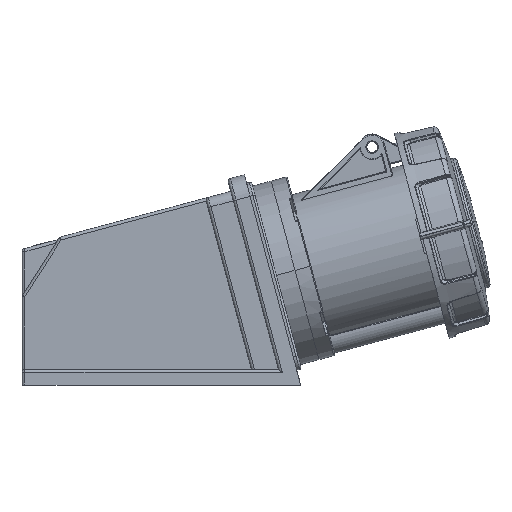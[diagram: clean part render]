
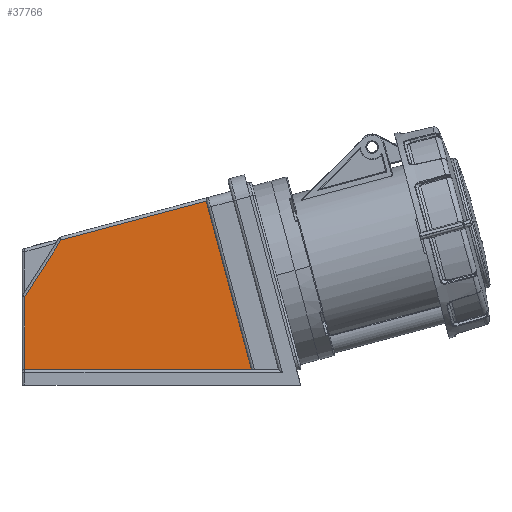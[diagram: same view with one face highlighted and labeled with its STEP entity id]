
A CAD part, left-side view. The second image highlights one B-rep face of the part: STEP entity #37766.
In plain terms, the highlighted planar face has unit normal (-1, 0, 0).
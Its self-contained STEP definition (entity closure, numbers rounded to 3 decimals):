
#36220 = VERTEX_POINT('',#36221);
#36221 = CARTESIAN_POINT('',(-42.5,70.5,45.716));
#36237 = VERTEX_POINT('',#36238);
#36238 = CARTESIAN_POINT('',(-42.5,70.5,8.));
#36245 = EDGE_CURVE('',#36220,#36237,#36246,.T.);
#36246 = LINE('',#36247,#36248);
#36247 = CARTESIAN_POINT('',(-42.5,70.5,26.858));
#36248 = VECTOR('',#36249,1.);
#36249 = DIRECTION('',(0.,0.,-1.));
#37740 = VERTEX_POINT('',#37741);
#37741 = CARTESIAN_POINT('',(-42.5,-23.22,
    95.116));
#37747 = EDGE_CURVE('',#37748,#37740,#37750,.T.);
#37748 = VERTEX_POINT('',#37749);
#37749 = CARTESIAN_POINT('',(-42.5,-46.563,8.));
#37750 = LINE('',#37751,#37752);
#37751 = CARTESIAN_POINT('',(-42.5,-34.891,51.558));
#37752 = VECTOR('',#37753,1.);
#37753 = DIRECTION('',(0.,0.259,0.966));
#37766 = ADVANCED_FACE('',(#37767),#37791,.F.);
#37767 = FACE_BOUND('',#37768,.T.);
#37768 = EDGE_LOOP('',(#37769,#37770,#37778,#37784,#37785));
#37769 = ORIENTED_EDGE('',*,*,#37747,.T.);
#37770 = ORIENTED_EDGE('',*,*,#37771,.T.);
#37771 = EDGE_CURVE('',#37740,#37772,#37774,.T.);
#37772 = VERTEX_POINT('',#37773);
#37773 = CARTESIAN_POINT('',(-42.5,51.732,75.033));
#37774 = LINE('',#37775,#37776);
#37775 = CARTESIAN_POINT('',(-42.5,-263.907,159.608));
#37776 = VECTOR('',#37777,1.);
#37777 = DIRECTION('',(0.,0.966,-0.259));
#37778 = ORIENTED_EDGE('',*,*,#37779,.T.);
#37779 = EDGE_CURVE('',#37772,#36220,#37780,.T.);
#37780 = LINE('',#37781,#37782);
#37781 = CARTESIAN_POINT('',(-42.5,-73.163,270.124));
#37782 = VECTOR('',#37783,1.);
#37783 = DIRECTION('',(0.,0.539,-0.842));
#37784 = ORIENTED_EDGE('',*,*,#36245,.T.);
#37785 = ORIENTED_EDGE('',*,*,#37786,.F.);
#37786 = EDGE_CURVE('',#37748,#36237,#37787,.T.);
#37787 = LINE('',#37788,#37789);
#37788 = CARTESIAN_POINT('',(-42.5,11.969,8.));
#37789 = VECTOR('',#37790,1.);
#37790 = DIRECTION('',(0.,1.,0.));
#37791 = PLANE('',#37792);
#37792 = AXIS2_PLACEMENT_3D('',#37793,#37794,#37795);
#37793 = CARTESIAN_POINT('',(-42.5,0.,0.));
#37794 = DIRECTION('',(1.,0.,0.));
#37795 = DIRECTION('',(-0.,1.,0.));
